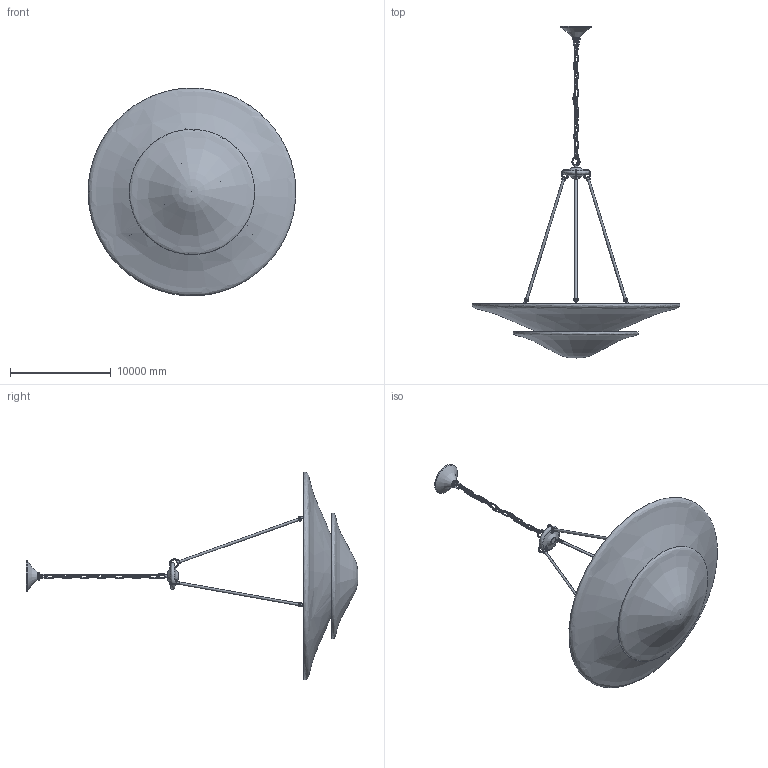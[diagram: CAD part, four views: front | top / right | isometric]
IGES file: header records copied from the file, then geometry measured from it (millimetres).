
Global section: file name: Mollino Chandelier-D31.9″,4; native system: 8HAutoCAD 2022 - 简体中文 (Simplified Chinese); preprocessor: Autodesk Translation Framework DWG producer (atf_dwg_producer); organization: unknown; date: 20250609.151320; units: inch
Bounding box: 20607.91 x 32936.04 x 20609.07 mm (x, y, z)
Volume: 103691664485.5 mm3; surface area: 1224793921.9 mm2
Topology: 62 solids, 65 shells, 1326 faces, 3265 edges, 2405 vertices
Faces by surface type: bspline 1326
